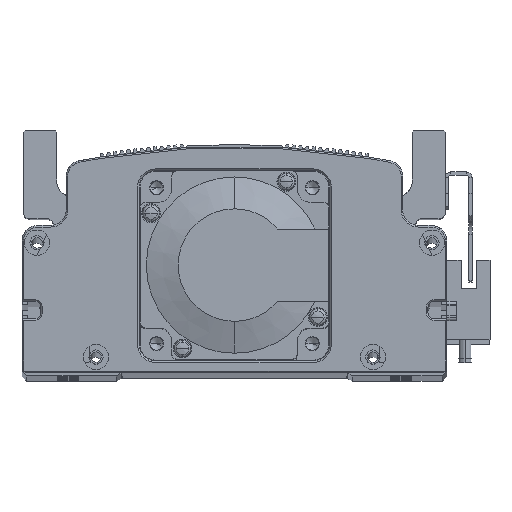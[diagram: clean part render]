
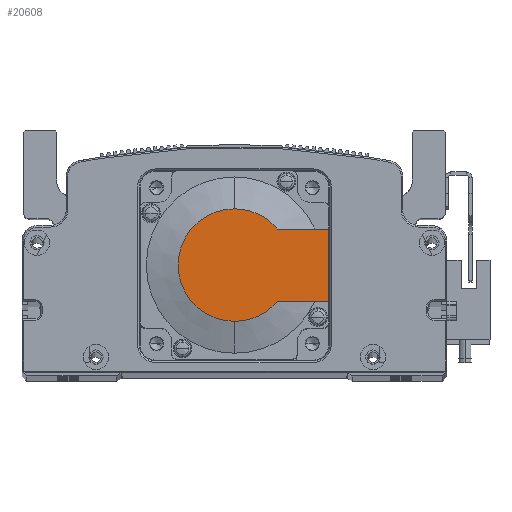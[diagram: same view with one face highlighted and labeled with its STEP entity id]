
A CAD part, top view. The second image highlights one B-rep face of the part: STEP entity #20608.
In plain terms, the highlighted planar face has unit normal (0, 0, 1) as drawn and (-1, 0, 0) by its records, which use the part's own axes.
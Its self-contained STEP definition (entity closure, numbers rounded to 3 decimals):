
#31 = CARTESIAN_POINT ( 'NONE',  ( -118.5, -8.941, -11.45 ) ) ;
#972 = VECTOR ( 'NONE', #21329, 1000. ) ;
#1187 = CARTESIAN_POINT ( 'NONE',  ( -118.5, 13.735, -11.45 ) ) ;
#2020 = AXIS2_PLACEMENT_3D ( 'NONE', #23210, #12257, #33713 ) ;
#4454 = LINE ( 'NONE', #13940, #63754 ) ;
#5306 = DIRECTION ( 'NONE',  ( -1., 0., 0. ) ) ;
#10129 = VERTEX_POINT ( 'NONE', #47286 ) ;
#10576 = DIRECTION ( 'NONE',  ( 0., -1., 0. ) ) ;
#12195 = EDGE_CURVE ( 'NONE', #28041, #10129, #52288, .T. ) ;
#12217 = DIRECTION ( 'NONE',  ( -1., 0., 0. ) ) ;
#12257 = DIRECTION ( 'NONE',  ( -1., 0., 0. ) ) ;
#13940 = CARTESIAN_POINT ( 'NONE',  ( -118.5, 30., 25. ) ) ;
#14171 = VERTEX_POINT ( 'NONE', #1187 ) ;
#14221 = VERTEX_POINT ( 'NONE', #61642 ) ;
#14913 = EDGE_CURVE ( 'NONE', #14221, #55356, #4454, .T. ) ;
#15527 = AXIS2_PLACEMENT_3D ( 'NONE', #17319, #12217, #65426 ) ;
#17319 = CARTESIAN_POINT ( 'NONE',  ( -118.5, 0., 0. ) ) ;
#19227 = DIRECTION ( 'NONE',  ( -1., 0., 0. ) ) ;
#19408 = EDGE_CURVE ( 'NONE', #14221, #14171, #45062, .T. ) ;
#20608 = ADVANCED_FACE ( 'NONE', ( #61613 ), #29272, .T. ) ;
#21329 = DIRECTION ( 'NONE',  ( 0., -1., 0. ) ) ;
#23210 = CARTESIAN_POINT ( 'NONE',  ( -118.5, -8.941, 0. ) ) ;
#27978 = EDGE_LOOP ( 'NONE', ( #59309, #55911, #66094, #67772, #30675, #56628 ) ) ;
#28041 = VERTEX_POINT ( 'NONE', #45798 ) ;
#29272 = PLANE ( 'NONE',  #2020 ) ;
#29487 = CARTESIAN_POINT ( 'NONE',  ( -118.5, 0., 0. ) ) ;
#30675 = ORIENTED_EDGE ( 'NONE', *, *, #44370, .F. ) ;
#31833 = CARTESIAN_POINT ( 'NONE',  ( -118.5, 0., 11.45 ) ) ;
#33713 = DIRECTION ( 'NONE',  ( 0., 0., 1. ) ) ;
#34410 = DIRECTION ( 'NONE',  ( 0., 0., -1. ) ) ;
#42678 = DIRECTION ( 'NONE',  ( 0., 0., -1. ) ) ;
#44370 = EDGE_CURVE ( 'NONE', #55356, #48467, #62829, .T. ) ;
#45062 = LINE ( 'NONE', #31, #49196 ) ;
#45688 = EDGE_CURVE ( 'NONE', #10129, #48467, #59268, .T. ) ;
#45798 = CARTESIAN_POINT ( 'NONE',  ( -118.5, 0., -17.881 ) ) ;
#47286 = CARTESIAN_POINT ( 'NONE',  ( -118.5, 0., 17.881 ) ) ;
#48467 = VERTEX_POINT ( 'NONE', #56617 ) ;
#49196 = VECTOR ( 'NONE', #10576, 1000. ) ;
#51282 = DIRECTION ( 'NONE',  ( 0., 0., 1. ) ) ;
#52288 = CIRCLE ( 'NONE', #65107, 17.881 ) ;
#55356 = VERTEX_POINT ( 'NONE', #65992 ) ;
#55628 = AXIS2_PLACEMENT_3D ( 'NONE', #64142, #5306, #42678 ) ;
#55911 = ORIENTED_EDGE ( 'NONE', *, *, #61756, .T. ) ;
#56617 = CARTESIAN_POINT ( 'NONE',  ( -118.5, 13.735, 11.45 ) ) ;
#56628 = ORIENTED_EDGE ( 'NONE', *, *, #14913, .F. ) ;
#59268 = CIRCLE ( 'NONE', #55628, 17.881 ) ;
#59309 = ORIENTED_EDGE ( 'NONE', *, *, #19408, .T. ) ;
#61613 = FACE_OUTER_BOUND ( 'NONE', #27978, .T. ) ;
#61642 = CARTESIAN_POINT ( 'NONE',  ( -118.5, 30., -11.45 ) ) ;
#61756 = EDGE_CURVE ( 'NONE', #14171, #28041, #65506, .T. ) ;
#62829 = LINE ( 'NONE', #31833, #972 ) ;
#63754 = VECTOR ( 'NONE', #51282, 1000. ) ;
#64142 = CARTESIAN_POINT ( 'NONE',  ( -118.5, 0., 0. ) ) ;
#65107 = AXIS2_PLACEMENT_3D ( 'NONE', #29487, #19227, #34410 ) ;
#65426 = DIRECTION ( 'NONE',  ( 0., 0., -1. ) ) ;
#65506 = CIRCLE ( 'NONE', #15527, 17.881 ) ;
#65992 = CARTESIAN_POINT ( 'NONE',  ( -118.5, 30., 11.45 ) ) ;
#66094 = ORIENTED_EDGE ( 'NONE', *, *, #12195, .T. ) ;
#67772 = ORIENTED_EDGE ( 'NONE', *, *, #45688, .T. ) ;
